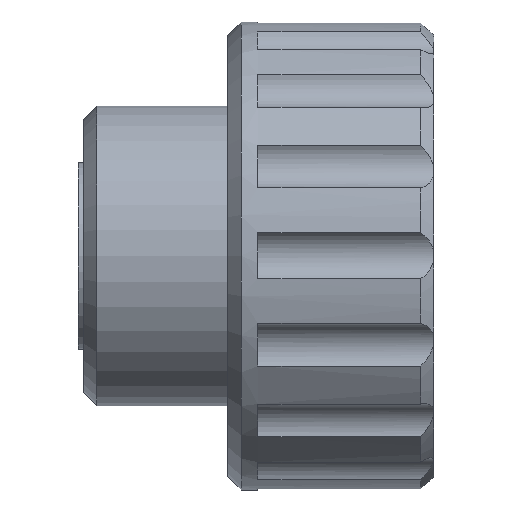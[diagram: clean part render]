
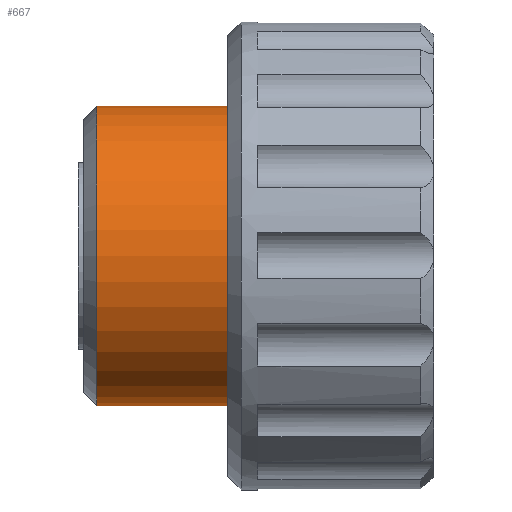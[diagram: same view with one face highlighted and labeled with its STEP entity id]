
A CAD part, top view. The second image highlights one B-rep face of the part: STEP entity #667.
In plain terms, the highlighted cylindrical face has radius 8 mm (diameter 16 mm), a partial arc.
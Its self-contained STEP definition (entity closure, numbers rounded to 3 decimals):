
#258 = CYLINDRICAL_SURFACE ( 'NONE', #1618, 8. ) ;
#303 = CARTESIAN_POINT ( 'NONE',  ( 1., 8., 0. ) ) ;
#555 = CARTESIAN_POINT ( 'NONE',  ( 14.5, 8., 0. ) ) ;
#615 = AXIS2_PLACEMENT_3D ( 'NONE', #1836, #1429, #2295 ) ;
#649 = EDGE_CURVE ( 'NONE', #2248, #1859, #1786, .T. ) ;
#667 = ADVANCED_FACE ( 'CYL_1', ( #1972 ), #258, .T. ) ;
#831 = ORIENTED_EDGE ( 'NONE', *, *, #2182, .T. ) ;
#852 = CARTESIAN_POINT ( 'NONE',  ( 11.071, 0., 0. ) ) ;
#894 = ORIENTED_EDGE ( 'NONE', *, *, #649, .F. ) ;
#928 = CARTESIAN_POINT ( 'NONE',  ( 14.5, -8., 0. ) ) ;
#947 = CARTESIAN_POINT ( 'NONE',  ( 11.071, 8., 0. ) ) ;
#1089 = DIRECTION ( 'NONE',  ( -1., 0., 0. ) ) ;
#1110 = CARTESIAN_POINT ( 'NONE',  ( 14.5, 0., 0. ) ) ;
#1143 = EDGE_CURVE ( 'NONE', #1859, #2298, #2680, .T. ) ;
#1176 = VERTEX_POINT ( 'NONE', #947 ) ;
#1220 = AXIS2_PLACEMENT_3D ( 'NONE', #852, #1089, #1961 ) ;
#1230 = ORIENTED_EDGE ( 'NONE', *, *, #2490, .T. ) ;
#1416 = DIRECTION ( 'NONE',  ( -1., 0., 0. ) ) ;
#1429 = DIRECTION ( 'NONE',  ( -1., 0., 0. ) ) ;
#1498 = DIRECTION ( 'NONE',  ( 0., -1., 0. ) ) ;
#1518 = CARTESIAN_POINT ( 'NONE',  ( 1., -8., 0. ) ) ;
#1588 = CARTESIAN_POINT ( 'NONE',  ( 11.071, -8., 0. ) ) ;
#1618 = AXIS2_PLACEMENT_3D ( 'NONE', #1110, #2672, #1498 ) ;
#1786 = LINE ( 'NONE', #928, #2402 ) ;
#1836 = CARTESIAN_POINT ( 'NONE',  ( 1., 0., 0. ) ) ;
#1859 = VERTEX_POINT ( 'NONE', #1518 ) ;
#1906 = VECTOR ( 'NONE', #1416, 1000. ) ;
#1961 = DIRECTION ( 'NONE',  ( 0., -1., 0. ) ) ;
#1972 = FACE_OUTER_BOUND ( 'NONE', #2250, .T. ) ;
#2017 = DIRECTION ( 'NONE',  ( -1., 0., 0. ) ) ;
#2043 = CIRCLE ( 'NONE', #1220, 8. ) ;
#2182 = EDGE_CURVE ( 'NONE', #2248, #1176, #2043, .T. ) ;
#2248 = VERTEX_POINT ( 'NONE', #1588 ) ;
#2250 = EDGE_LOOP ( 'NONE', ( #831, #1230, #2297, #894 ) ) ;
#2295 = DIRECTION ( 'NONE',  ( 0., -1., 0. ) ) ;
#2297 = ORIENTED_EDGE ( 'NONE', *, *, #1143, .F. ) ;
#2298 = VERTEX_POINT ( 'NONE', #303 ) ;
#2402 = VECTOR ( 'NONE', #2017, 1000. ) ;
#2490 = EDGE_CURVE ( 'NONE', #1176, #2298, #2518, .T. ) ;
#2518 = LINE ( 'NONE', #555, #1906 ) ;
#2672 = DIRECTION ( 'NONE',  ( -1., 0., 0. ) ) ;
#2680 = CIRCLE ( 'NONE', #615, 8. ) ;
